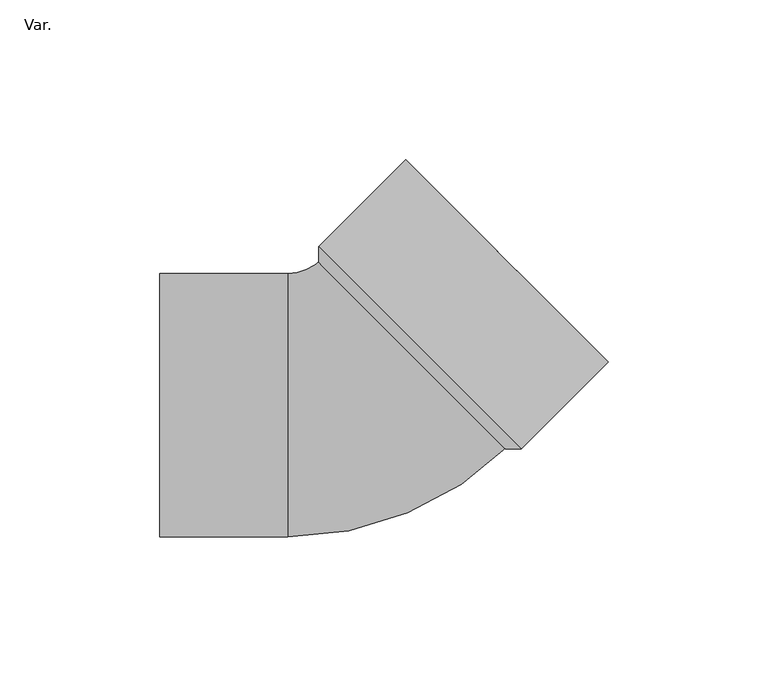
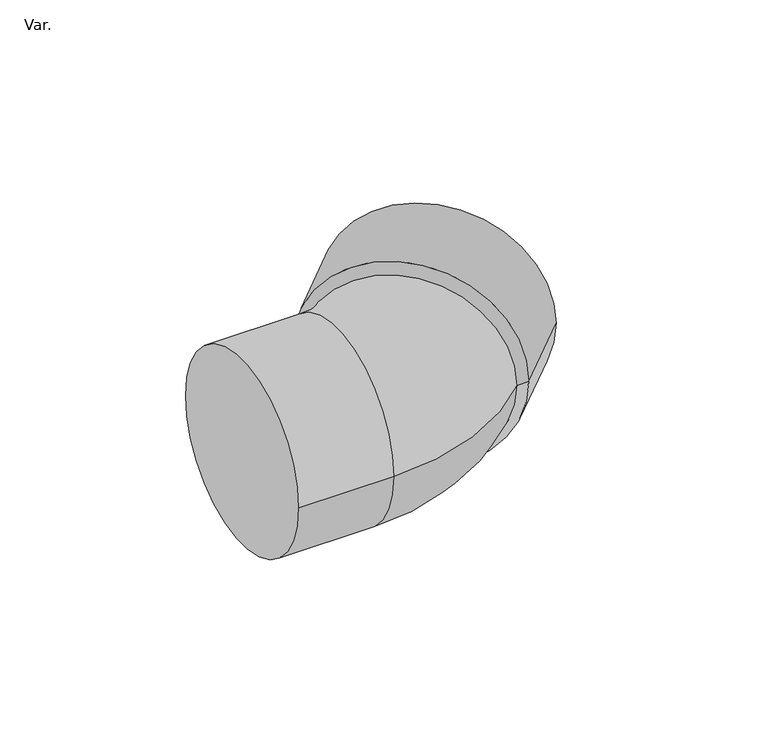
"""IFC4 building model written with IfcOpenShell, lengths in millimetres: pipe fitting geometry, PavcoWavin_UnionesDeTuberia_SanitariaZnoUsarCodo_CxE : Var.."""

from ifc_helpers import new_model, si_unit, point, frame, origin, place, context, project, spatial, polyline, circle_curve, ellipse_curve, trimmed, source, transform, mapped, element, save
from ifc_brep_helpers import plane_surface, cylinder_surface, revolved_surface, advanced_brep


def var_de0ad339(model_context):
    return source(origin(), model_context, "Body", "AdvancedBrep", [
        advanced_brep(
        [(-13.7390848, 44.63258, 0.0), (44.63258, -13.7390848, 0.0), (74.3699557, 15.9982909, 0.0), (15.9982909, 74.3699557, 0.0), (-13.7390848, 49.6601092, 0.0), (49.6601092, -13.7390848, 0.0), (13.4845263, 76.8837203, 0.0), (76.8837203, 13.4845263, 0.0)],
        [
            (0, 1, circle_curve(frame((15.4467476, 15.4467476, 0.0), z_axis=(-0.707106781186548, -0.707106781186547, 0.0), x_axis=(0.707106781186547, -0.707106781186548, 0.0)), 41.275)),
            (1, 2),
            (2, 3, circle_curve(frame((45.1841233, 45.1841233, 0.0), z_axis=(0.707106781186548, 0.707106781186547, 0.0), x_axis=(0.707106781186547, -0.707106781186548, 0.0)), 41.275)),
            (3, 0),
            (1, 0, circle_curve(frame((15.4467476, 15.4467476, 0.0), z_axis=(-0.707106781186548, -0.707106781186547, 0.0), x_axis=(0.707106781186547, -0.707106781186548, 0.0)), 41.275)),
            (3, 2, circle_curve(frame((45.1841233, 45.1841233, 0.0), z_axis=(0.707106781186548, 0.707106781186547, 0.0), x_axis=(0.707106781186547, -0.707106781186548, 0.0)), 41.275)),
            (4, 5, circle_curve(frame((17.9605122, 17.9605122, 0.0), z_axis=(-0.707106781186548, -0.707106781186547, 0.0), x_axis=(0.707106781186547, -0.707106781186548, 0.0)), 44.83)),
            (5, 1),
            (0, 4),
            (5, 4, circle_curve(frame((17.9605122, 17.9605122, 0.0), z_axis=(-0.707106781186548, -0.707106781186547, 0.0), x_axis=(0.707106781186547, -0.707106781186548, 0.0)), 44.83)),
            (6, 7, circle_curve(frame((45.1841233, 45.1841233, 0.0), z_axis=(-0.707106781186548, -0.707106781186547, 0.0), x_axis=(0.707106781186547, -0.707106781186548, 0.0)), 44.83)),
            (7, 5),
            (4, 6),
            (7, 6, circle_curve(frame((45.1841233, 45.1841233, 0.0), z_axis=(-0.707106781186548, -0.707106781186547, 0.0), x_axis=(0.707106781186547, -0.707106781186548, 0.0)), 44.83)),
            (2, 7),
            (6, 3),
        ],
        [
            revolved_surface(polyline([(74.36995569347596, 15.99829090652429, 0.0), (44.6325799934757, -13.739084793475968, 0.0)]), (-1395.9383876, -1395.9383876, 0.0), (0.707106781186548, 0.707106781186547, 0.0)),
            revolved_surface(polyline([(44.63258, -13.7390848, 0.0), (49.6601092, -13.7390848, 0.0)]), (-1395.9383876, -1395.9383876, 0.0), (0.707106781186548, 0.707106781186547, 0.0)),
            cylinder_surface(frame((-1395.9383876, -1395.9383876, 0.0), z_axis=(0.707106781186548, 0.707106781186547, 0.0), x_axis=(0.707106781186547, -0.707106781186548, 0.0)), 44.83),
            plane_surface(frame((45.1841233, 45.1841233, 0.0), z_axis=(0.707106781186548, 0.707106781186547, 0.0), x_axis=(0.707106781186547, -0.707106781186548, 0.0))),
        ],
        [
            (0, [[1, 2, 3, 4]]),
            (0, [[5, -4, 6, -2]]),
            (1, [[7, 8, -1, 9]]),
            (1, [[10, -9, -5, -8]]),
            (2, [[11, 12, -7, 13]]),
            (2, [[14, -13, -10, -12]]),
            (3, [[-3, 15, -11, 16]]),
            (3, [[-6, -16, -14, -15]]),
        ],
    ),
        advanced_brep(
        [(-63.5, -41.275, 0.0), (-63.5, 41.275, 0.0), (-23.4, -41.275, 0.0), (-23.4, 41.275, 0.0), (45.7321311, -12.6395337, 0.0), (-12.6395337, 45.7321311, 0.0), (47.1463446, -11.2253202, 0.0), (-11.2253202, 47.1463446, 0.0), (17.9605122, 17.9605122, 0.0)],
        [
            (0, 1, circle_curve(frame((-63.5, 0.0, 0.0), z_axis=(-1.0, 0.0, 0.0), x_axis=(0.0, 1.0, 0.0)), 41.275)),
            (1, 0, circle_curve(frame((-63.5, 0.0, 0.0), z_axis=(-1.0, 0.0, 0.0), x_axis=(0.0, 1.0, 0.0)), 41.275)),
            (0, 2),
            (2, 3, circle_curve(frame((-23.4, 0.0, 0.0), z_axis=(-1.0, 0.0, 0.0), x_axis=(0.0, 1.0, 0.0)), 41.275)),
            (3, 1),
            (3, 2, circle_curve(frame((-23.4, 0.0, 0.0), z_axis=(-1.0, 0.0, 0.0), x_axis=(0.0, 1.0, 0.0)), 41.275)),
            (2, 4, circle_curve(frame((-23.4, 56.4925974, 0.0), z_axis=(0.0, 0.0, 1.0), x_axis=(0.0, -1.0, 0.0)), 97.7675974)),
            (4, 5, circle_curve(frame((16.5462987, 16.5462987, 0.0), z_axis=(-0.7071067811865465, -0.7071067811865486, 0.0), x_axis=(-0.7071067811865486, 0.7071067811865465, 0.0)), 41.275)),
            (5, 3, circle_curve(frame((-23.4, 56.4925974, 0.0), z_axis=(0.0, 0.0, -1.0), x_axis=(0.0, -1.0, 0.0)), 15.2175974)),
            (5, 4, circle_curve(frame((16.5462987, 16.5462987, 0.0), z_axis=(-0.7071067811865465, -0.7071067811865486, 0.0), x_axis=(-0.7071067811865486, 0.7071067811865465, 0.0)), 41.275)),
            (6, 7, circle_curve(frame((17.9605122, 17.9605122, 0.0), z_axis=(0.7071067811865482, 0.7071067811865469, 0.0), x_axis=(-0.7071067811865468, 0.7071067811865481, 0.0)), 41.275)),
            (7, 8),
            (8, 6),
            (7, 6, circle_curve(frame((17.9605122, 17.9605122, 0.0), z_axis=(0.7071067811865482, 0.7071067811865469, 0.0), x_axis=(-0.7071067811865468, 0.7071067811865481, 0.0)), 41.275)),
            (6, 4),
            (5, 7),
        ],
        [
            plane_surface(frame((-63.5, 0.0, 0.0), z_axis=(-1.0, 0.0, 0.0), x_axis=(0.0, 0.0, 1.0))),
            cylinder_surface(frame((-63.5, 0.0, 0.0), z_axis=(-1.0, 0.0, 0.0), x_axis=(0.0, 1.0, 0.0)), 41.275),
            revolved_surface(trimmed(ellipse_curve(frame((-23.4, 0.0, 0.0), z_axis=(-1.0, 0.0, 0.0), x_axis=(0.0, 1.0, 0.0)), 41.275, 41.275), [point((-23.4, -41.275, 0.0))], [point((-23.4, 41.275, 0.0))], True, "CARTESIAN"), (-23.4, 56.4925974, 0.0), (0.0, 0.0, 1.0)),
            revolved_surface(trimmed(ellipse_curve(frame((-23.4, 0.0, 0.0), z_axis=(-1.0, 0.0, 0.0), x_axis=(0.0, 1.0, 0.0)), 41.275, 41.275), [point((-23.4, 41.275, 0.0))], [point((-23.4, -41.275, 0.0))], True, "CARTESIAN"), (-23.4, 56.4925974, 0.0), (0.0, 0.0, 1.0)),
            plane_surface(frame((17.9605122, 17.9605122, 0.0), z_axis=(0.7071067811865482, 0.7071067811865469, 0.0), x_axis=(-0.7071067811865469, 0.7071067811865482, 0.0))),
            cylinder_surface(frame((0.0, 0.0, 0.0), z_axis=(-0.7071067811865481, -0.7071067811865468, 0.0), x_axis=(-0.7071067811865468, 0.7071067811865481, 0.0)), 41.275),
        ],
        [
            (0, [[1, 2]]),
            (1, [[-1, 3, 4, 5]]),
            (1, [[-2, -5, 6, -3]]),
            (2, [[-4, 7, 8, 9]]),
            (3, [[-6, -9, 10, -7]]),
            (4, [[11, 12, 13]]),
            (4, [[-12, 14, -13]]),
            (5, [[-11, 15, -10, 16]]),
            (5, [[-14, -16, -8, -15]]),
        ],
    ),
    ])


if __name__ == "__main__":
    model = new_model("IFC4")
    model_context = context("Model", 3, world=origin())
    ifc_project = project(units=[si_unit("LENGTHUNIT", "METRE", prefix="MILLI")], contexts=[model_context])
    site = spatial("IfcSite", under=ifc_project)
    building = spatial("IfcBuilding", under=site)
    placement = place(None, origin())
    var_shape = var_de0ad339(model_context)
    element("IfcPipeFitting", 1, ObjectType="PavcoWavin_UnionesDeTuberia_SanitariaZnoUsarCodo_CxE : Var.", at=placement, inside=building, context=model_context, shape_type="MappedRepresentation", body=[
        mapped(var_shape, transform((0.0, 0.0, 0.0), x_axis=(1.0, 0.0, 0.0), y_axis=(0.0, 1.0, 0.0), z_axis=(0.0, 0.0, 1.0))),
    ])
    save(model, "model.ifc")
